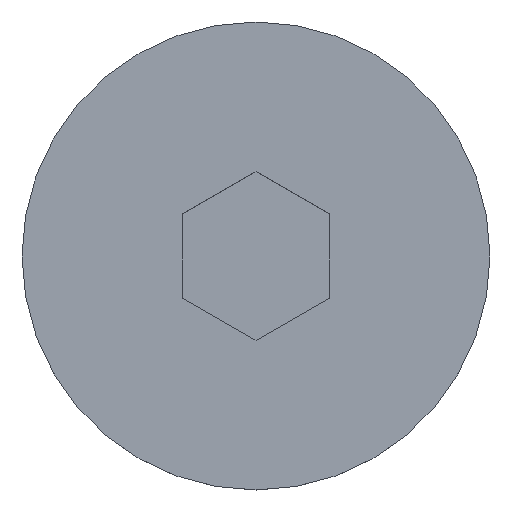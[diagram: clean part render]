
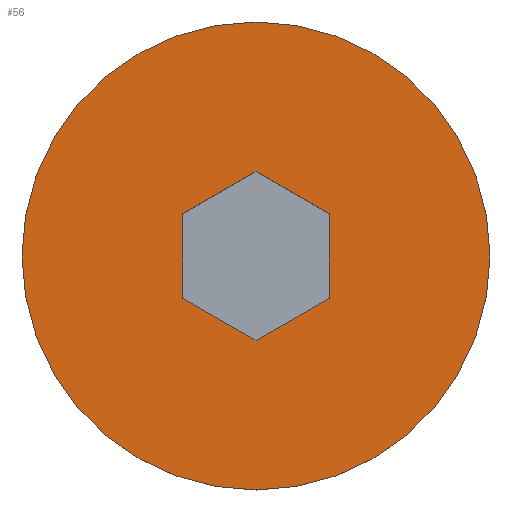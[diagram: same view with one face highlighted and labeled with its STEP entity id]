
A CAD part, top view. The second image highlights one B-rep face of the part: STEP entity #56.
In plain terms, the highlighted planar face has unit normal (0, 0, 1).
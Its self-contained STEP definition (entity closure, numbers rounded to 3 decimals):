
#10 = LINE ( 'NONE', #107, #241 ) ;
#20 = VERTEX_POINT ( 'NONE', #254 ) ;
#33 = DIRECTION ( 'NONE',  ( 0.866, -0.5, 0. ) ) ;
#36 = DIRECTION ( 'NONE',  ( -0.866, -0.5, 0. ) ) ;
#43 = DIRECTION ( 'NONE',  ( 0., 0., -1. ) ) ;
#49 = DIRECTION ( 'NONE',  ( -1., 0., 0. ) ) ;
#54 = CARTESIAN_POINT ( 'NONE',  ( -9.61, 0., 5.22 ) ) ;
#56 = ADVANCED_FACE ( 'NONE', ( #294, #397 ), #435, .T. ) ;
#62 = VERTEX_POINT ( 'NONE', #54 ) ;
#80 = DIRECTION ( 'NONE',  ( 0., -1., 0. ) ) ;
#83 = CARTESIAN_POINT ( 'NONE',  ( 0., 0., 5.22 ) ) ;
#91 = CARTESIAN_POINT ( 'NONE',  ( 0., 3.464, 5.22 ) ) ;
#92 = VERTEX_POINT ( 'NONE', #91 ) ;
#95 = CARTESIAN_POINT ( 'NONE',  ( 3., 1.732, 5.22 ) ) ;
#99 = VECTOR ( 'NONE', #36, 1000. ) ;
#104 = CIRCLE ( 'NONE', #277, 9.61 ) ;
#105 = VERTEX_POINT ( 'NONE', #344 ) ;
#107 = CARTESIAN_POINT ( 'NONE',  ( 0., -3.464, 5.22 ) ) ;
#108 = ORIENTED_EDGE ( 'NONE', *, *, #289, .F. ) ;
#115 = VERTEX_POINT ( 'NONE', #412 ) ;
#123 = LINE ( 'NONE', #388, #396 ) ;
#125 = CARTESIAN_POINT ( 'NONE',  ( -3., -1.732, 5.22 ) ) ;
#135 = CARTESIAN_POINT ( 'NONE',  ( 0., 3.464, 5.22 ) ) ;
#138 = EDGE_CURVE ( 'NONE', #20, #115, #370, .T. ) ;
#143 = VERTEX_POINT ( 'NONE', #95 ) ;
#151 = VECTOR ( 'NONE', #80, 1000. ) ;
#168 = AXIS2_PLACEMENT_3D ( 'NONE', #83, #283, #49 ) ;
#170 = DIRECTION ( 'NONE',  ( -0.866, 0.5, 0. ) ) ;
#192 = VECTOR ( 'NONE', #274, 1000. ) ;
#201 = CARTESIAN_POINT ( 'NONE',  ( 0., 0., 5.22 ) ) ;
#204 = EDGE_LOOP ( 'NONE', ( #429, #337, #383, #298, #300, #108 ) ) ;
#211 = DIRECTION ( 'NONE',  ( 1., 0., 0. ) ) ;
#223 = EDGE_CURVE ( 'NONE', #143, #92, #123, .T. ) ;
#230 = DIRECTION ( 'NONE',  ( -1., 0., 0. ) ) ;
#232 = LINE ( 'NONE', #135, #99 ) ;
#238 = CARTESIAN_POINT ( 'NONE',  ( 3., -1.732, 5.22 ) ) ;
#241 = VECTOR ( 'NONE', #313, 1000. ) ;
#254 = CARTESIAN_POINT ( 'NONE',  ( -3., -1.732, 5.22 ) ) ;
#273 = CARTESIAN_POINT ( 'NONE',  ( -3., 1.732, 5.22 ) ) ;
#274 = DIRECTION ( 'NONE',  ( 0., 1., 0. ) ) ;
#275 = CIRCLE ( 'NONE', #168, 9.61 ) ;
#277 = AXIS2_PLACEMENT_3D ( 'NONE', #201, #43, #230 ) ;
#283 = DIRECTION ( 'NONE',  ( 0., 0., -1. ) ) ;
#286 = VERTEX_POINT ( 'NONE', #273 ) ;
#289 = EDGE_CURVE ( 'NONE', #92, #286, #232, .T. ) ;
#294 = FACE_BOUND ( 'NONE', #204, .T. ) ;
#298 = ORIENTED_EDGE ( 'NONE', *, *, #138, .F. ) ;
#300 = ORIENTED_EDGE ( 'NONE', *, *, #402, .F. ) ;
#313 = DIRECTION ( 'NONE',  ( 0.866, 0.5, 0. ) ) ;
#315 = EDGE_CURVE ( 'NONE', #347, #143, #436, .T. ) ;
#323 = EDGE_CURVE ( 'NONE', #105, #62, #104, .T. ) ;
#331 = CARTESIAN_POINT ( 'NONE',  ( -9.61, 0., 5.22 ) ) ;
#334 = ORIENTED_EDGE ( 'NONE', *, *, #323, .F. ) ;
#337 = ORIENTED_EDGE ( 'NONE', *, *, #315, .F. ) ;
#342 = AXIS2_PLACEMENT_3D ( 'NONE', #331, #439, #211 ) ;
#344 = CARTESIAN_POINT ( 'NONE',  ( 9.61, 0., 5.22 ) ) ;
#347 = VERTEX_POINT ( 'NONE', #238 ) ;
#349 = CARTESIAN_POINT ( 'NONE',  ( 3., -1.732, 5.22 ) ) ;
#370 = LINE ( 'NONE', #125, #438 ) ;
#383 = ORIENTED_EDGE ( 'NONE', *, *, #385, .F. ) ;
#385 = EDGE_CURVE ( 'NONE', #115, #347, #10, .T. ) ;
#386 = ORIENTED_EDGE ( 'NONE', *, *, #406, .F. ) ;
#388 = CARTESIAN_POINT ( 'NONE',  ( 3., 1.732, 5.22 ) ) ;
#394 = CARTESIAN_POINT ( 'NONE',  ( -3., 1.732, 5.22 ) ) ;
#396 = VECTOR ( 'NONE', #170, 1000. ) ;
#397 = FACE_OUTER_BOUND ( 'NONE', #414, .T. ) ;
#402 = EDGE_CURVE ( 'NONE', #286, #20, #446, .T. ) ;
#406 = EDGE_CURVE ( 'NONE', #62, #105, #275, .T. ) ;
#412 = CARTESIAN_POINT ( 'NONE',  ( 0., -3.464, 5.22 ) ) ;
#414 = EDGE_LOOP ( 'NONE', ( #386, #334 ) ) ;
#429 = ORIENTED_EDGE ( 'NONE', *, *, #223, .F. ) ;
#435 = PLANE ( 'NONE',  #342 ) ;
#436 = LINE ( 'NONE', #349, #192 ) ;
#438 = VECTOR ( 'NONE', #33, 1000. ) ;
#439 = DIRECTION ( 'NONE',  ( 0., 0., 1. ) ) ;
#446 = LINE ( 'NONE', #394, #151 ) ;
